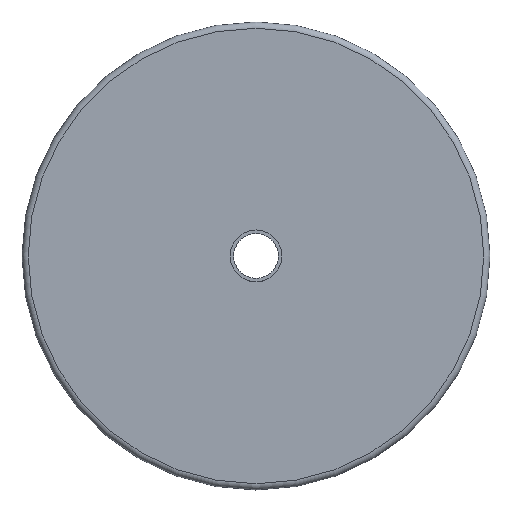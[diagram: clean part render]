
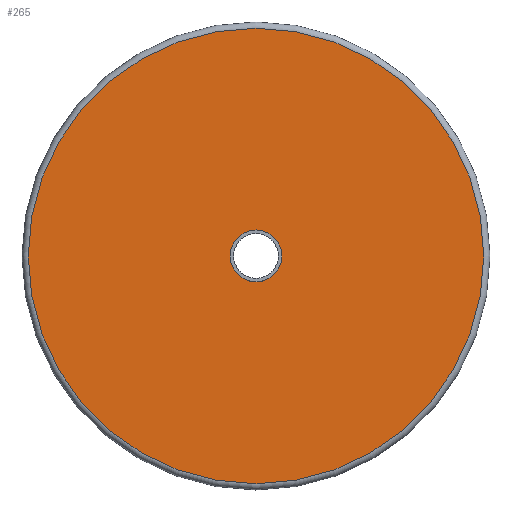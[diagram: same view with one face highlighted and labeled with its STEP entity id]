
A CAD part, top view. The second image highlights one B-rep face of the part: STEP entity #265.
In plain terms, the highlighted planar face has unit normal (0, 0, 1).
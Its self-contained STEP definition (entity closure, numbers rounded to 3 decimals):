
#84 = TOROIDAL_SURFACE('',#85,21.9,0.6);
#85 = AXIS2_PLACEMENT_3D('',#86,#87,#88);
#86 = CARTESIAN_POINT('',(0.,0.,0.9));
#87 = DIRECTION('',(0.,0.,1.));
#88 = DIRECTION('',(1.,0.,-0.));
#181 = VERTEX_POINT('',#182);
#182 = CARTESIAN_POINT('',(21.9,0.,1.5));
#204 = EDGE_CURVE('',#181,#181,#205,.T.);
#205 = SURFACE_CURVE('',#206,(#211,#218),.PCURVE_S1.);
#206 = CIRCLE('',#207,21.9);
#207 = AXIS2_PLACEMENT_3D('',#208,#209,#210);
#208 = CARTESIAN_POINT('',(0.,0.,1.5));
#209 = DIRECTION('',(0.,0.,1.));
#210 = DIRECTION('',(1.,0.,-0.));
#211 = PCURVE('',#84,#212);
#212 = DEFINITIONAL_REPRESENTATION('',(#213),#217);
#213 = LINE('',#214,#215);
#214 = CARTESIAN_POINT('',(0.,1.571));
#215 = VECTOR('',#216,1.);
#216 = DIRECTION('',(1.,0.));
#217 = ( GEOMETRIC_REPRESENTATION_CONTEXT(2) 
PARAMETRIC_REPRESENTATION_CONTEXT() REPRESENTATION_CONTEXT('2D SPACE',''
  ) );
#218 = PCURVE('',#219,#224);
#219 = PLANE('',#220);
#220 = AXIS2_PLACEMENT_3D('',#221,#222,#223);
#221 = CARTESIAN_POINT('',(0.,0.,1.5));
#222 = DIRECTION('',(0.,0.,1.));
#223 = DIRECTION('',(1.,0.,-0.));
#224 = DEFINITIONAL_REPRESENTATION('',(#225),#229);
#225 = CIRCLE('',#226,21.9);
#226 = AXIS2_PLACEMENT_2D('',#227,#228);
#227 = CARTESIAN_POINT('',(0.,0.));
#228 = DIRECTION('',(1.,0.));
#229 = ( GEOMETRIC_REPRESENTATION_CONTEXT(2) 
PARAMETRIC_REPRESENTATION_CONTEXT() REPRESENTATION_CONTEXT('2D SPACE',''
  ) );
#265 = ADVANCED_FACE('',(#266,#269),#219,.T.);
#266 = FACE_BOUND('',#267,.T.);
#267 = EDGE_LOOP('',(#268));
#268 = ORIENTED_EDGE('',*,*,#204,.T.);
#269 = FACE_BOUND('',#270,.T.);
#270 = EDGE_LOOP('',(#271));
#271 = ORIENTED_EDGE('',*,*,#272,.F.);
#272 = EDGE_CURVE('',#273,#273,#275,.T.);
#273 = VERTEX_POINT('',#274);
#274 = CARTESIAN_POINT('',(2.5,0.,1.5));
#275 = SURFACE_CURVE('',#276,(#281,#288),.PCURVE_S1.);
#276 = CIRCLE('',#277,2.5);
#277 = AXIS2_PLACEMENT_3D('',#278,#279,#280);
#278 = CARTESIAN_POINT('',(0.,0.,1.5));
#279 = DIRECTION('',(0.,0.,1.));
#280 = DIRECTION('',(1.,0.,-0.));
#281 = PCURVE('',#219,#282);
#282 = DEFINITIONAL_REPRESENTATION('',(#283),#287);
#283 = CIRCLE('',#284,2.5);
#284 = AXIS2_PLACEMENT_2D('',#285,#286);
#285 = CARTESIAN_POINT('',(0.,0.));
#286 = DIRECTION('',(1.,0.));
#287 = ( GEOMETRIC_REPRESENTATION_CONTEXT(2) 
PARAMETRIC_REPRESENTATION_CONTEXT() REPRESENTATION_CONTEXT('2D SPACE',''
  ) );
#288 = PCURVE('',#289,#294);
#289 = CYLINDRICAL_SURFACE('',#290,2.5);
#290 = AXIS2_PLACEMENT_3D('',#291,#292,#293);
#291 = CARTESIAN_POINT('',(0.,0.,1.49));
#292 = DIRECTION('',(0.,0.,1.));
#293 = DIRECTION('',(1.,0.,-0.));
#294 = DEFINITIONAL_REPRESENTATION('',(#295),#299);
#295 = LINE('',#296,#297);
#296 = CARTESIAN_POINT('',(0.,0.01));
#297 = VECTOR('',#298,1.);
#298 = DIRECTION('',(1.,0.));
#299 = ( GEOMETRIC_REPRESENTATION_CONTEXT(2) 
PARAMETRIC_REPRESENTATION_CONTEXT() REPRESENTATION_CONTEXT('2D SPACE',''
  ) );
